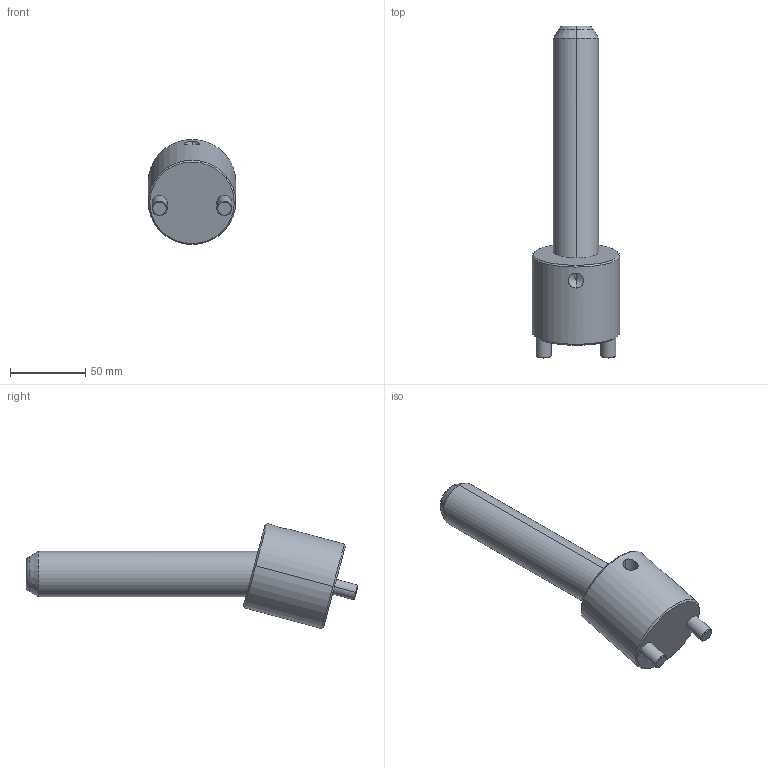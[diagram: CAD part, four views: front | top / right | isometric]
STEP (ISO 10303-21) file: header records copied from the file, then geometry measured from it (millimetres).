
FILE_DESCRIPTION(('CATIA V5 STEP Exchange'),'2;1');
FILE_NAME('C:\Users\Raffaele\Desktop\3D BOLEX\3D FILES CF BOLEX\19-INCLINED ASSEMBLY REF_CI\CI1530150.stp','2019-06-21T14:21:31+00:00',('none'),('none'),'CATIA Version 5 Release 20 GA (IN-10)','CATIA V5 STEP AP203','none');
FILE_SCHEMA(('CONFIG_CONTROL_DESIGN'));
Length unit declared in the file: millimetre
Products named in the file (1): CI1530150
Assembly tree (2 placements, depth 2):
  CI1530150
    #58
    #584
Bounding box: 58 x 220.33 x 69.74 mm (x, y, z)
Volume: 249719.3 mm3; surface area: 40216.6 mm2
Topology: 2 solids, 2 shells, 39 faces, 82 edges, 47 vertices
Faces by surface type: cone 14, cylinder 14, plane 7, torus 4
Entity records: 1542 total; most frequent: CARTESIAN_POINT 679, ORIENTED_EDGE 160, DIRECTION 147, EDGE_CURVE 80, AXIS2_PLACEMENT_3D 74, VERTEX_POINT 47, EDGE_LOOP 43, ADVANCED_FACE 39
